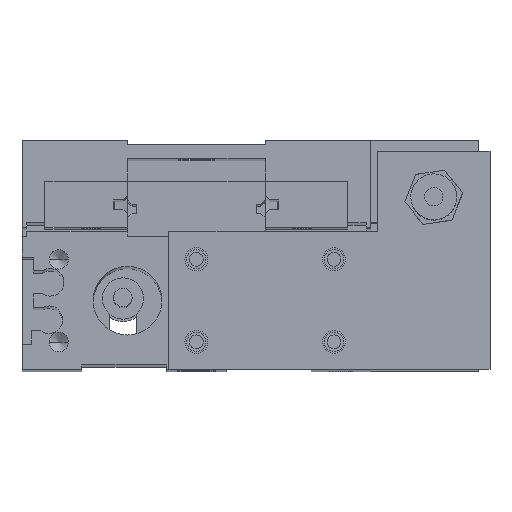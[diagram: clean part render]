
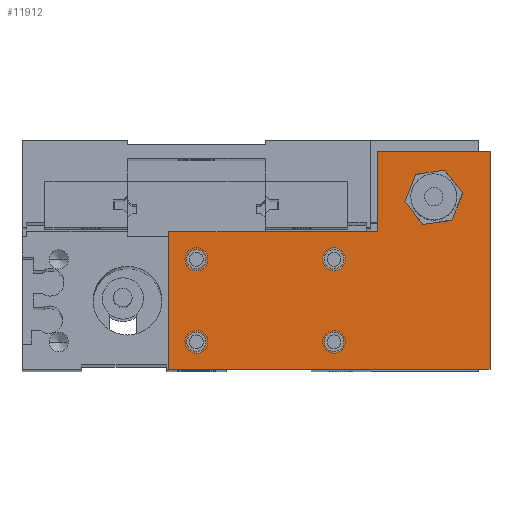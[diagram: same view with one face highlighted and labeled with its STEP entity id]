
A CAD part, top view. The second image highlights one B-rep face of the part: STEP entity #11912.
In plain terms, the highlighted planar face has unit normal (0, 0, 1).
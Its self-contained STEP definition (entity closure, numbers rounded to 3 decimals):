
#8477 = VERTEX_POINT ( 'NONE', #26902 ) ;
#8481 = EDGE_CURVE ( 'NONE', #9316, #9291, #26903, .T. ) ;
#8504 = EDGE_CURVE ( 'NONE', #8477, #9030, #26904, .T. ) ;
#8997 = EDGE_CURVE ( 'NONE', #9035, #9259, #27046, .T. ) ;
#9030 = VERTEX_POINT ( 'NONE', #27018 ) ;
#9035 = VERTEX_POINT ( 'NONE', #27017 ) ;
#9259 = VERTEX_POINT ( 'NONE', #27184 ) ;
#9291 = VERTEX_POINT ( 'NONE', #27421 ) ;
#9316 = VERTEX_POINT ( 'NONE', #27396 ) ;
#9391 = VERTEX_POINT ( 'NONE', #27457 ) ;
#9827 = VERTEX_POINT ( 'NONE', #27796 ) ;
#9906 = VERTEX_POINT ( 'NONE', #27837 ) ;
#9911 = VERTEX_POINT ( 'NONE', #27825 ) ;
#9919 = EDGE_CURVE ( 'NONE', #9391, #9906, #27832, .T. ) ;
#10128 = EDGE_CURVE ( 'NONE', #9911, #9827, #27882, .T. ) ;
#10224 = EDGE_CURVE ( 'NONE', #10508, #10488, #27947, .T. ) ;
#10484 = VERTEX_POINT ( 'NONE', #28123 ) ;
#10488 = VERTEX_POINT ( 'NONE', #28128 ) ;
#10495 = EDGE_CURVE ( 'NONE', #10484, #10508, #28117, .T. ) ;
#10508 = VERTEX_POINT ( 'NONE', #28115 ) ;
#10808 = VERTEX_POINT ( 'NONE', #28220 ) ;
#11057 = EDGE_LOOP ( 'NONE', ( #11340, #12277 ) ) ;
#11062 = EDGE_CURVE ( 'NONE', #10808, #11077, #28268, .T. ) ;
#11077 = VERTEX_POINT ( 'NONE', #28212 ) ;
#11086 = EDGE_CURVE ( 'NONE', #10488, #10808, #28264, .T. ) ;
#11321 = EDGE_CURVE ( 'NONE', #9291, #9316, #28262, .T. ) ;
#11340 = ORIENTED_EDGE ( 'NONE', *, *, #11373, .F. ) ;
#11341 = ORIENTED_EDGE ( 'NONE', *, *, #8481, .F. ) ;
#11345 = ORIENTED_EDGE ( 'NONE', *, *, #8997, .F. ) ;
#11360 = EDGE_LOOP ( 'NONE', ( #11603, #11647 ) ) ;
#11364 = EDGE_CURVE ( 'NONE', #9030, #8477, #28507, .T. ) ;
#11373 = EDGE_CURVE ( 'NONE', #9906, #9391, #28514, .T. ) ;
#11597 = ORIENTED_EDGE ( 'NONE', *, *, #11321, .F. ) ;
#11603 = ORIENTED_EDGE ( 'NONE', *, *, #11364, .F. ) ;
#11623 = EDGE_CURVE ( 'NONE', #11077, #11646, #28741, .T. ) ;
#11637 = EDGE_LOOP ( 'NONE', ( #11824, #11345 ) ) ;
#11642 = EDGE_CURVE ( 'NONE', #11646, #10484, #28736, .T. ) ;
#11646 = VERTEX_POINT ( 'NONE', #28782 ) ;
#11647 = ORIENTED_EDGE ( 'NONE', *, *, #8504, .F. ) ;
#11652 = EDGE_CURVE ( 'NONE', #9259, #9035, #28781, .T. ) ;
#11824 = ORIENTED_EDGE ( 'NONE', *, *, #11652, .F. ) ;
#11912 = ADVANCED_FACE ( 'NONE', ( #28765, #28785, #28805, #28804, #28768, #28775 ), #28784, .F. ) ;
#11916 = EDGE_CURVE ( 'NONE', #9827, #9911, #28806, .T. ) ;
#11931 = EDGE_LOOP ( 'NONE', ( #11597, #11341 ) ) ;
#12090 = EDGE_LOOP ( 'NONE', ( #12111, #12324, #12107, #12115, #12110, #12322 ) ) ;
#12099 = ORIENTED_EDGE ( 'NONE', *, *, #10128, .F. ) ;
#12102 = EDGE_LOOP ( 'NONE', ( #12117, #12099 ) ) ;
#12107 = ORIENTED_EDGE ( 'NONE', *, *, #11086, .T. ) ;
#12110 = ORIENTED_EDGE ( 'NONE', *, *, #11623, .T. ) ;
#12111 = ORIENTED_EDGE ( 'NONE', *, *, #10495, .T. ) ;
#12115 = ORIENTED_EDGE ( 'NONE', *, *, #11062, .T. ) ;
#12117 = ORIENTED_EDGE ( 'NONE', *, *, #11916, .F. ) ;
#12277 = ORIENTED_EDGE ( 'NONE', *, *, #9919, .F. ) ;
#12322 = ORIENTED_EDGE ( 'NONE', *, *, #11642, .T. ) ;
#12324 = ORIENTED_EDGE ( 'NONE', *, *, #10224, .T. ) ;
#26894 = DIRECTION ( 'NONE',  ( 1., 0., 0. ) ) ;
#26895 = DIRECTION ( 'NONE',  ( 0., 0., 1. ) ) ;
#26896 = CARTESIAN_POINT ( 'NONE',  ( 6., 6., 12. ) ) ;
#26897 = AXIS2_PLACEMENT_3D ( 'NONE', #26896, #26895, #26894 ) ;
#26898 = DIRECTION ( 'NONE',  ( 0., 0., 1. ) ) ;
#26900 = AXIS2_PLACEMENT_3D ( 'NONE', #26901, #26898, #26941 ) ;
#26901 = CARTESIAN_POINT ( 'NONE',  ( 6., 24., 12. ) ) ;
#26902 = CARTESIAN_POINT ( 'NONE',  ( 3.9, 24., 12. ) ) ;
#26903 = CIRCLE ( 'NONE', #26897, 2.1 ) ;
#26904 = CIRCLE ( 'NONE', #26900, 2.1 ) ;
#26941 = DIRECTION ( 'NONE',  ( 1., 0., 0. ) ) ;
#27017 = CARTESIAN_POINT ( 'NONE',  ( 33.9, 24., 12. ) ) ;
#27018 = CARTESIAN_POINT ( 'NONE',  ( 8.1, 24., 12. ) ) ;
#27021 = DIRECTION ( 'NONE',  ( 1., 0., 0. ) ) ;
#27022 = DIRECTION ( 'NONE',  ( 0., 0., 1. ) ) ;
#27024 = AXIS2_PLACEMENT_3D ( 'NONE', #27029, #27022, #27021 ) ;
#27029 = CARTESIAN_POINT ( 'NONE',  ( 36., 24., 12. ) ) ;
#27046 = CIRCLE ( 'NONE', #27024, 2.1 ) ;
#27184 = CARTESIAN_POINT ( 'NONE',  ( 38.1, 24., 12. ) ) ;
#27396 = CARTESIAN_POINT ( 'NONE',  ( 3.9, 6., 12. ) ) ;
#27421 = CARTESIAN_POINT ( 'NONE',  ( 8.1, 6., 12. ) ) ;
#27457 = CARTESIAN_POINT ( 'NONE',  ( 33.9, 6., 12. ) ) ;
#27796 = CARTESIAN_POINT ( 'NONE',  ( 62.75, 37.5, 12. ) ) ;
#27825 = CARTESIAN_POINT ( 'NONE',  ( 52.75, 37.5, 12. ) ) ;
#27828 = CARTESIAN_POINT ( 'NONE',  ( 36., 6., 12. ) ) ;
#27832 = CIRCLE ( 'NONE', #27889, 2.1 ) ;
#27837 = CARTESIAN_POINT ( 'NONE',  ( 38.1, 6., 12. ) ) ;
#27870 = AXIS2_PLACEMENT_3D ( 'NONE', #27911, #27910, #27909 ) ;
#27882 = CIRCLE ( 'NONE', #27870, 5. ) ;
#27887 = DIRECTION ( 'NONE',  ( 1., 0., 0. ) ) ;
#27888 = DIRECTION ( 'NONE',  ( 0., 0., 1. ) ) ;
#27889 = AXIS2_PLACEMENT_3D ( 'NONE', #27828, #27888, #27887 ) ;
#27909 = DIRECTION ( 'NONE',  ( 1., 0., 0. ) ) ;
#27910 = DIRECTION ( 'NONE',  ( 0., 0., 1. ) ) ;
#27911 = CARTESIAN_POINT ( 'NONE',  ( 57.75, 37.5, 12. ) ) ;
#27947 = LINE ( 'NONE', #27994, #27993 ) ;
#27992 = DIRECTION ( 'NONE',  ( 1., 0., 0. ) ) ;
#27993 = VECTOR ( 'NONE', #27992, 1000. ) ;
#27994 = CARTESIAN_POINT ( 'NONE',  ( 0., 0., 12. ) ) ;
#28112 = DIRECTION ( 'NONE',  ( 0., -1., 0. ) ) ;
#28113 = VECTOR ( 'NONE', #28112, 1000. ) ;
#28115 = CARTESIAN_POINT ( 'NONE',  ( 0., 0., 12. ) ) ;
#28116 = CARTESIAN_POINT ( 'NONE',  ( 0., 0., 12. ) ) ;
#28117 = LINE ( 'NONE', #28116, #28113 ) ;
#28123 = CARTESIAN_POINT ( 'NONE',  ( 0., 30., 12. ) ) ;
#28128 = CARTESIAN_POINT ( 'NONE',  ( 70., 0., 12. ) ) ;
#28212 = CARTESIAN_POINT ( 'NONE',  ( 45.5, 47.5, 12. ) ) ;
#28220 = CARTESIAN_POINT ( 'NONE',  ( 70., 47.5, 12. ) ) ;
#28262 = CIRCLE ( 'NONE', #28391, 2.1 ) ;
#28263 = CARTESIAN_POINT ( 'NONE',  ( 70., 0., 12. ) ) ;
#28264 = LINE ( 'NONE', #28263, #28337 ) ;
#28265 = DIRECTION ( 'NONE',  ( -1., 0., 0. ) ) ;
#28266 = VECTOR ( 'NONE', #28265, 1000. ) ;
#28267 = CARTESIAN_POINT ( 'NONE',  ( 70., 47.5, 12. ) ) ;
#28268 = LINE ( 'NONE', #28267, #28266 ) ;
#28336 = DIRECTION ( 'NONE',  ( 0., 1., 0. ) ) ;
#28337 = VECTOR ( 'NONE', #28336, 1000. ) ;
#28347 = DIRECTION ( 'NONE',  ( 1., 0., 0. ) ) ;
#28348 = DIRECTION ( 'NONE',  ( 0., 0., 1. ) ) ;
#28390 = CARTESIAN_POINT ( 'NONE',  ( 6., 6., 12. ) ) ;
#28391 = AXIS2_PLACEMENT_3D ( 'NONE', #28390, #28348, #28347 ) ;
#28503 = DIRECTION ( 'NONE',  ( 1., 0., 0. ) ) ;
#28504 = DIRECTION ( 'NONE',  ( 0., 0., 1. ) ) ;
#28505 = CARTESIAN_POINT ( 'NONE',  ( 6., 24., 12. ) ) ;
#28506 = AXIS2_PLACEMENT_3D ( 'NONE', #28505, #28504, #28503 ) ;
#28507 = CIRCLE ( 'NONE', #28506, 2.1 ) ;
#28508 = CARTESIAN_POINT ( 'NONE',  ( 36., 6., 12. ) ) ;
#28514 = CIRCLE ( 'NONE', #28538, 2.1 ) ;
#28536 = DIRECTION ( 'NONE',  ( 1., 0., 0. ) ) ;
#28537 = DIRECTION ( 'NONE',  ( 0., 0., 1. ) ) ;
#28538 = AXIS2_PLACEMENT_3D ( 'NONE', #28508, #28537, #28536 ) ;
#28734 = AXIS2_PLACEMENT_3D ( 'NONE', #28738, #28774, #28773 ) ;
#28735 = CARTESIAN_POINT ( 'NONE',  ( 0., 30., 12. ) ) ;
#28736 = LINE ( 'NONE', #28735, #28780 ) ;
#28738 = CARTESIAN_POINT ( 'NONE',  ( 36., 24., 12. ) ) ;
#28739 = VECTOR ( 'NONE', #28783, 1000. ) ;
#28740 = CARTESIAN_POINT ( 'NONE',  ( 45.5, 47.5, 12. ) ) ;
#28741 = LINE ( 'NONE', #28740, #28739 ) ;
#28765 = FACE_BOUND ( 'NONE', #11360, .T. ) ;
#28767 = DIRECTION ( 'NONE',  ( -1., 0., 0. ) ) ;
#28768 = FACE_BOUND ( 'NONE', #12102, .T. ) ;
#28773 = DIRECTION ( 'NONE',  ( 1., 0., 0. ) ) ;
#28774 = DIRECTION ( 'NONE',  ( 0., 0., 1. ) ) ;
#28775 = FACE_OUTER_BOUND ( 'NONE', #12090, .T. ) ;
#28777 = DIRECTION ( 'NONE',  ( 0., 0., -1. ) ) ;
#28778 = CARTESIAN_POINT ( 'NONE',  ( 0., 30., 12. ) ) ;
#28779 = DIRECTION ( 'NONE',  ( -1., 0., 0. ) ) ;
#28780 = VECTOR ( 'NONE', #28779, 1000. ) ;
#28781 = CIRCLE ( 'NONE', #28734, 2.1 ) ;
#28782 = CARTESIAN_POINT ( 'NONE',  ( 45.5, 30., 12. ) ) ;
#28783 = DIRECTION ( 'NONE',  ( 0., -1., 0. ) ) ;
#28784 = PLANE ( 'NONE',  #28800 ) ;
#28785 = FACE_BOUND ( 'NONE', #11637, .T. ) ;
#28800 = AXIS2_PLACEMENT_3D ( 'NONE', #28778, #28777, #28767 ) ;
#28804 = FACE_BOUND ( 'NONE', #11057, .T. ) ;
#28805 = FACE_BOUND ( 'NONE', #11931, .T. ) ;
#28806 = CIRCLE ( 'NONE', #28863, 5. ) ;
#28860 = DIRECTION ( 'NONE',  ( 1., 0., 0. ) ) ;
#28861 = DIRECTION ( 'NONE',  ( 0., 0., 1. ) ) ;
#28862 = CARTESIAN_POINT ( 'NONE',  ( 57.75, 37.5, 12. ) ) ;
#28863 = AXIS2_PLACEMENT_3D ( 'NONE', #28862, #28861, #28860 ) ;
